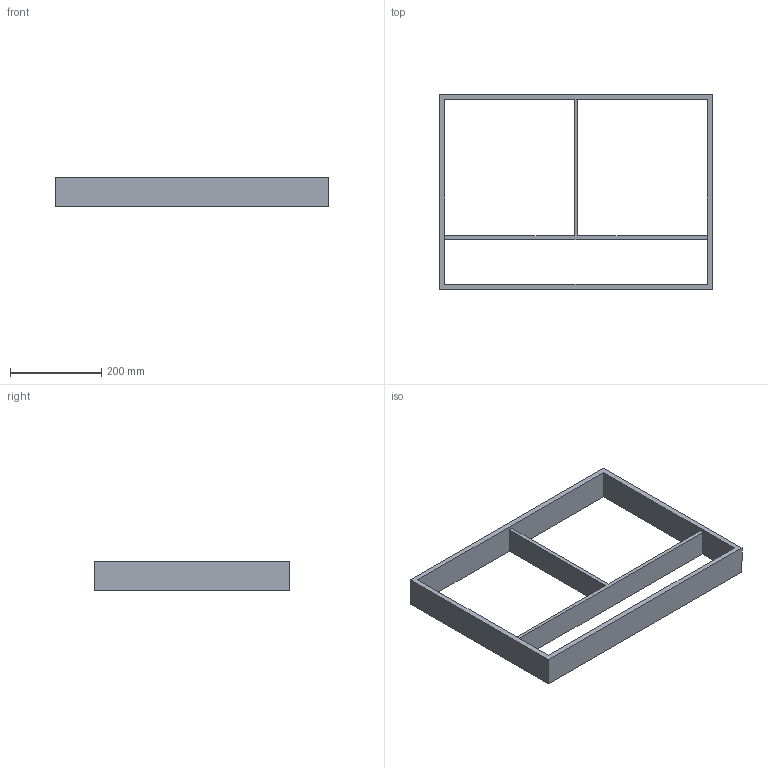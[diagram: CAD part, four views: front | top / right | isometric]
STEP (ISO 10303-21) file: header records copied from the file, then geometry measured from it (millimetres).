
FILE_DESCRIPTION (( 'STEP AP214' ), '1' );
FILE_NAME ('Vario Multi NL450_ZE600_16 mm_Alu.step', '2010-10-07T06:24:36', ( 'grass' ), ( '' ), 'SwSTEP 2.0', 'SolidWorks 2010', '' );
FILE_SCHEMA (( 'AUTOMOTIVE_DESIGN' ));
Length unit declared in the file: millimetre
Products named in the file (1): Vario Multi NL450_ZE600_16 mm_Alu
Bounding box: 600 x 429 x 65 mm (x, y, z)
Volume: 1966708.8 mm3; surface area: 421440 mm2
Topology: 1 solids, 1 shells, 16 faces, 48 edges, 32 vertices
Faces by surface type: plane 16
Entity records: 578 total; most frequent: CARTESIAN_POINT 97, ORIENTED_EDGE 96, DIRECTION 82, EDGE_CURVE 48, LINE 48, VECTOR 48, VERTEX_POINT 32, EDGE_LOOP 20
